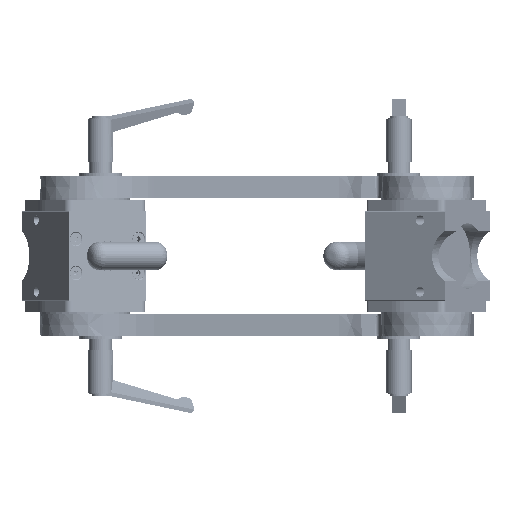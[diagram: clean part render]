
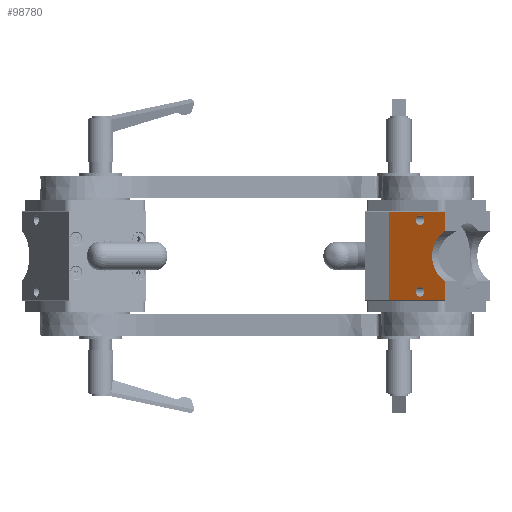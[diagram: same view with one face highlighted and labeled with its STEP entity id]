
A CAD part, left-side view. The second image highlights one B-rep face of the part: STEP entity #98780.
In plain terms, the highlighted planar face has unit normal (-0.866, 0.5, 0).
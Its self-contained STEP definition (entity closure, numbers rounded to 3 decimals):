
#5603 = ORIENTED_EDGE ( 'NONE', *, *, #102959, .F. ) ;
#5604 = ORIENTED_EDGE ( 'NONE', *, *, #102765, .F. ) ;
#5605 = ORIENTED_EDGE ( 'NONE', *, *, #102955, .F. ) ;
#5606 = ORIENTED_EDGE ( 'NONE', *, *, #102772, .F. ) ;
#5607 = ORIENTED_EDGE ( 'NONE', *, *, #102949, .F. ) ;
#5608 = ORIENTED_EDGE ( 'NONE', *, *, #102908, .T. ) ;
#5609 = ORIENTED_EDGE ( 'NONE', *, *, #102963, .T. ) ;
#5610 = ORIENTED_EDGE ( 'NONE', *, *, #102857, .F. ) ;
#5611 = ORIENTED_EDGE ( 'NONE', *, *, #102884, .T. ) ;
#5612 = ORIENTED_EDGE ( 'NONE', *, *, #102892, .T. ) ;
#40135 = FACE_BOUND ( 'NONE', #114933, .T. ) ;
#40146 = FACE_BOUND ( 'NONE', #114936, .T. ) ;
#40148 = FACE_OUTER_BOUND ( 'NONE', #114937, .T. ) ;
#41591 = CARTESIAN_POINT ( 'NONE',  ( -238.211, -50.162, -25.354 ) ) ;
#41592 = PLANE ( 'NONE',  #42013 ) ;
#41593 = DIRECTION ( 'NONE',  ( 0.866, -0.5, 0. ) ) ;
#41594 = DIRECTION ( 'NONE',  ( 0., 0., -1. ) ) ;
#42013 = AXIS2_PLACEMENT_3D ( 'NONE', #41591, #41593, #41594 ) ;
#55242 = AXIS2_PLACEMENT_3D ( 'NONE', #59849, #59854, #59855 ) ;
#55248 = AXIS2_PLACEMENT_3D ( 'NONE', #59853, #59863, #59864 ) ;
#55268 = AXIS2_PLACEMENT_3D ( 'NONE', #62271, #62275, #62277 ) ;
#55336 = AXIS2_PLACEMENT_3D ( 'NONE', #62553, #62570, #62572 ) ;
#55340 = AXIS2_PLACEMENT_3D ( 'NONE', #62567, #62584, #62586 ) ;
#59849 = CARTESIAN_POINT ( 'NONE',  ( -246.111, -63.846, -21.229 ) ) ;
#59853 = CARTESIAN_POINT ( 'NONE',  ( -246.111, -63.846, 10.521 ) ) ;
#59854 = DIRECTION ( 'NONE',  ( -0.866, 0.5, 0. ) ) ;
#59855 = DIRECTION ( 'NONE',  ( 0., 0., 1. ) ) ;
#59863 = DIRECTION ( 'NONE',  ( -0.866, 0.5, 0. ) ) ;
#59864 = DIRECTION ( 'NONE',  ( 0., 0., 1. ) ) ;
#60197 = CIRCLE ( 'NONE', #55242, 2.1 ) ;
#60202 = CIRCLE ( 'NONE', #55248, 2.1 ) ;
#60261 = CIRCLE ( 'NONE', #55268, 12.5 ) ;
#60282 = LINE ( 'NONE', #62345, #60283 ) ;
#60283 = VECTOR ( 'NONE', #62347, 1000. ) ;
#60290 = LINE ( 'NONE', #62365, #60291 ) ;
#60291 = VECTOR ( 'NONE', #62367, 1000. ) ;
#60303 = LINE ( 'NONE', #62408, #60304 ) ;
#60304 = VECTOR ( 'NONE', #62410, 1000. ) ;
#60320 = LINE ( 'NONE', #62544, #60323 ) ;
#60323 = VECTOR ( 'NONE', #62546, 1000. ) ;
#60329 = LINE ( 'NONE', #62596, #60334 ) ;
#60331 = CIRCLE ( 'NONE', #55336, 2.1 ) ;
#60334 = VECTOR ( 'NONE', #62598, 1000. ) ;
#60335 = CIRCLE ( 'NONE', #55340, 2.1 ) ;
#62271 = CARTESIAN_POINT ( 'NONE',  ( -255.461, -80.04, -5.354 ) ) ;
#62275 = DIRECTION ( 'NONE',  ( -0.866, 0.5, 0. ) ) ;
#62277 = DIRECTION ( 'NONE',  ( 0., 0., -1. ) ) ;
#62345 = CARTESIAN_POINT ( 'NONE',  ( -252.461, -74.844, -25.354 ) ) ;
#62347 = DIRECTION ( 'NONE',  ( 0., 0., 1. ) ) ;
#62365 = CARTESIAN_POINT ( 'NONE',  ( -238.211, -50.162, 14.146 ) ) ;
#62367 = DIRECTION ( 'NONE',  ( 0.5, 0.866, 0. ) ) ;
#62408 = CARTESIAN_POINT ( 'NONE',  ( -238.211, -50.162, -24.854 ) ) ;
#62410 = DIRECTION ( 'NONE',  ( -0.5, -0.866, 0. ) ) ;
#62544 = CARTESIAN_POINT ( 'NONE',  ( -238.211, -50.162, -25.354 ) ) ;
#62546 = DIRECTION ( 'NONE',  ( 0., 0., 1. ) ) ;
#62553 = CARTESIAN_POINT ( 'NONE',  ( -246.111, -63.846, 10.521 ) ) ;
#62567 = CARTESIAN_POINT ( 'NONE',  ( -246.111, -63.846, -21.229 ) ) ;
#62570 = DIRECTION ( 'NONE',  ( -0.866, 0.5, 0. ) ) ;
#62572 = DIRECTION ( 'NONE',  ( 0., 0., 1. ) ) ;
#62584 = DIRECTION ( 'NONE',  ( -0.866, 0.5, 0. ) ) ;
#62586 = DIRECTION ( 'NONE',  ( 0., 0., 1. ) ) ;
#62596 = CARTESIAN_POINT ( 'NONE',  ( -252.461, -74.844, -25.354 ) ) ;
#62598 = DIRECTION ( 'NONE',  ( 0., 0., 1. ) ) ;
#63400 = CARTESIAN_POINT ( 'NONE',  ( -246.111, -63.846, -23.329 ) ) ;
#63401 = CARTESIAN_POINT ( 'NONE',  ( -246.111, -63.846, -19.129 ) ) ;
#63404 = CARTESIAN_POINT ( 'NONE',  ( -246.111, -63.846, 8.421 ) ) ;
#63405 = CARTESIAN_POINT ( 'NONE',  ( -246.111, -63.846, 12.621 ) ) ;
#63432 = CARTESIAN_POINT ( 'NONE',  ( -252.461, -74.844, 5.612 ) ) ;
#63433 = CARTESIAN_POINT ( 'NONE',  ( -252.461, -74.844, -16.32 ) ) ;
#63440 = CARTESIAN_POINT ( 'NONE',  ( -252.461, -74.844, 14.146 ) ) ;
#63441 = CARTESIAN_POINT ( 'NONE',  ( -238.211, -50.162, 14.146 ) ) ;
#63447 = CARTESIAN_POINT ( 'NONE',  ( -238.211, -50.162, -24.854 ) ) ;
#63449 = CARTESIAN_POINT ( 'NONE',  ( -252.461, -74.844, -24.854 ) ) ;
#98780 = ADVANCED_FACE ( 'NONE', ( #40135, #40146, #40148 ), #41592, .F. ) ;
#102765 = EDGE_CURVE ( 'NONE', #109719, #109720, #60197, .T. ) ;
#102772 = EDGE_CURVE ( 'NONE', #109723, #109724, #60202, .T. ) ;
#102857 = EDGE_CURVE ( 'NONE', #109751, #109752, #60261, .T. ) ;
#102884 = EDGE_CURVE ( 'NONE', #109751, #109759, #60282, .T. ) ;
#102892 = EDGE_CURVE ( 'NONE', #109759, #109760, #60290, .T. ) ;
#102908 = EDGE_CURVE ( 'NONE', #109766, #109768, #60303, .T. ) ;
#102949 = EDGE_CURVE ( 'NONE', #109766, #109760, #60320, .T. ) ;
#102955 = EDGE_CURVE ( 'NONE', #109724, #109723, #60331, .T. ) ;
#102959 = EDGE_CURVE ( 'NONE', #109720, #109719, #60335, .T. ) ;
#102963 = EDGE_CURVE ( 'NONE', #109768, #109752, #60329, .T. ) ;
#109719 = VERTEX_POINT ( 'NONE', #63400 ) ;
#109720 = VERTEX_POINT ( 'NONE', #63401 ) ;
#109723 = VERTEX_POINT ( 'NONE', #63404 ) ;
#109724 = VERTEX_POINT ( 'NONE', #63405 ) ;
#109751 = VERTEX_POINT ( 'NONE', #63432 ) ;
#109752 = VERTEX_POINT ( 'NONE', #63433 ) ;
#109759 = VERTEX_POINT ( 'NONE', #63440 ) ;
#109760 = VERTEX_POINT ( 'NONE', #63441 ) ;
#109766 = VERTEX_POINT ( 'NONE', #63447 ) ;
#109768 = VERTEX_POINT ( 'NONE', #63449 ) ;
#114933 = EDGE_LOOP ( 'NONE', ( #5603, #5604 ) ) ;
#114936 = EDGE_LOOP ( 'NONE', ( #5605, #5606 ) ) ;
#114937 = EDGE_LOOP ( 'NONE', ( #5607, #5608, #5609, #5610, #5611, #5612 ) ) ;
